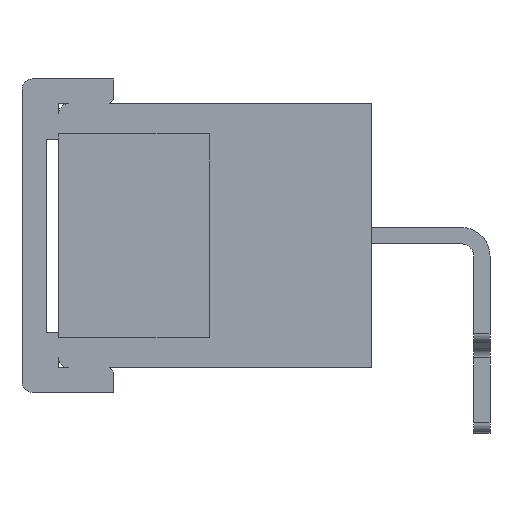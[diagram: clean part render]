
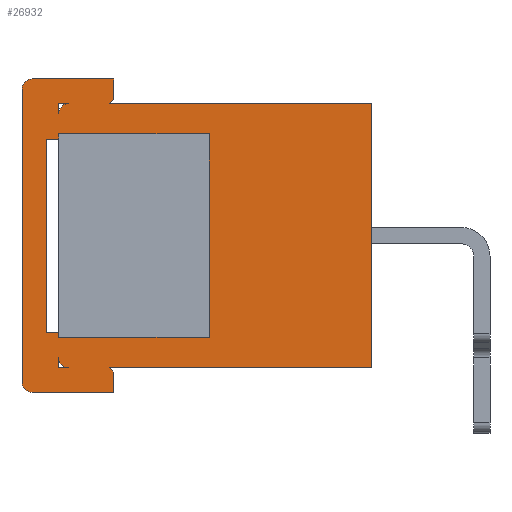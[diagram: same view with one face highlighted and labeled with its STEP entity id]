
A CAD part, left-side view. The second image highlights one B-rep face of the part: STEP entity #26932.
In plain terms, the highlighted planar face has unit normal (-1, 0, 0).
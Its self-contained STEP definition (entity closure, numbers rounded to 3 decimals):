
#1=DIRECTION('',(0.,0.707,0.707));
#2=VECTOR('',#1,0.283);
#3=CARTESIAN_POINT('',(7.25,12.7,-13.2));
#4=LINE('',#3,#2);
#5=CARTESIAN_POINT('',(7.25,16.7,-13.7));
#6=DIRECTION('',(-1.,0.,0.));
#7=DIRECTION('',(0.,1.,0.));
#8=AXIS2_PLACEMENT_3D('',#5,#6,#7);
#10=CARTESIAN_POINT('',(7.25,16.7,0.7));
#11=DIRECTION('',(-1.,0.,0.));
#12=DIRECTION('',(0.,0.,1.));
#13=AXIS2_PLACEMENT_3D('',#10,#11,#12);
#15=DIRECTION('',(0.,1.,0.));
#16=VECTOR('',#15,4.);
#17=CARTESIAN_POINT('',(7.25,12.7,1.2));
#18=LINE('',#17,#16);
#19=DIRECTION('',(0.,-0.707,0.707));
#20=VECTOR('',#19,0.283);
#21=CARTESIAN_POINT('',(7.25,12.9,0.));
#22=LINE('',#21,#20);
#23=CARTESIAN_POINT('',(7.25,14.9,-12.5));
#24=DIRECTION('',(-1.,0.,0.));
#25=DIRECTION('',(0.,1.,0.));
#26=AXIS2_PLACEMENT_3D('',#23,#24,#25);
#28=CARTESIAN_POINT('',(7.25,14.9,-0.5));
#29=DIRECTION('',(-1.,0.,0.));
#30=DIRECTION('',(0.,0.,1.));
#31=AXIS2_PLACEMENT_3D('',#28,#29,#30);
#45=DIRECTION('',(0.,1.,0.));
#46=VECTOR('',#45,12.9);
#47=CARTESIAN_POINT('',(7.25,0.,-13.));
#48=LINE('',#47,#46);
#131=DIRECTION('',(0.,-1.,0.));
#132=VECTOR('',#131,0.5);
#133=CARTESIAN_POINT('',(7.25,15.4,-13.));
#134=LINE('',#133,#132);
#229=DIRECTION('',(0.,0.,-1.));
#230=VECTOR('',#229,13.);
#231=CARTESIAN_POINT('',(7.25,0.,0.));
#232=LINE('',#231,#230);
#351=DIRECTION('',(0.,1.,0.));
#352=VECTOR('',#351,0.5);
#353=CARTESIAN_POINT('',(7.25,14.9,0.));
#354=LINE('',#353,#352);
#431=DIRECTION('',(0.,0.,-1.));
#432=VECTOR('',#431,1.);
#433=CARTESIAN_POINT('',(7.25,12.7,1.2));
#434=LINE('',#433,#432);
#455=DIRECTION('',(0.,0.,1.));
#456=VECTOR('',#455,14.4);
#457=CARTESIAN_POINT('',(7.25,17.2,-13.7));
#458=LINE('',#457,#456);
#471=DIRECTION('',(0.,1.,0.));
#472=VECTOR('',#471,4.);
#473=CARTESIAN_POINT('',(7.25,12.7,-14.2));
#474=LINE('',#473,#472);
#483=DIRECTION('',(0.,0.,-1.));
#484=VECTOR('',#483,1.);
#485=CARTESIAN_POINT('',(7.25,12.7,-13.2));
#486=LINE('',#485,#484);
#604=DIRECTION('',(0.,0.,-1.));
#605=VECTOR('',#604,0.25);
#606=CARTESIAN_POINT('',(7.25,15.4,-11.25));
#607=LINE('',#606,#605);
#624=DIRECTION('',(0.,0.,-1.));
#625=VECTOR('',#624,0.5);
#626=CARTESIAN_POINT('',(7.25,15.4,-12.5));
#627=LINE('',#626,#625);
#672=DIRECTION('',(0.,0.,-1.));
#673=VECTOR('',#672,0.25);
#674=CARTESIAN_POINT('',(7.25,15.4,-1.5));
#675=LINE('',#674,#673);
#692=DIRECTION('',(0.,0.,-1.));
#693=VECTOR('',#692,0.5);
#694=CARTESIAN_POINT('',(7.25,15.4,0.));
#695=LINE('',#694,#693);
#712=DIRECTION('',(0.,1.,0.));
#713=VECTOR('',#712,0.6);
#714=CARTESIAN_POINT('',(7.25,15.4,-1.75));
#715=LINE('',#714,#713);
#851=DIRECTION('',(0.,-1.,0.));
#852=VECTOR('',#851,12.9);
#853=CARTESIAN_POINT('',(7.25,12.9,0.));
#854=LINE('',#853,#852);
#1008=DIRECTION('',(0.,1.,0.));
#1009=VECTOR('',#1008,7.4);
#1010=CARTESIAN_POINT('',(7.25,8.,-1.5));
#1011=LINE('',#1010,#1009);
#1016=DIRECTION('',(0.,0.,1.));
#1017=VECTOR('',#1016,10.);
#1018=CARTESIAN_POINT('',(7.25,8.,-11.5));
#1019=LINE('',#1018,#1017);
#1028=DIRECTION('',(0.,-1.,0.));
#1029=VECTOR('',#1028,7.4);
#1030=CARTESIAN_POINT('',(7.25,15.4,-11.5));
#1031=LINE('',#1030,#1029);
#1048=DIRECTION('',(0.,-1.,0.));
#1049=VECTOR('',#1048,0.6);
#1050=CARTESIAN_POINT('',(7.25,16.,-11.25));
#1051=LINE('',#1050,#1049);
#1060=DIRECTION('',(0.,0.,-1.));
#1061=VECTOR('',#1060,9.5);
#1062=CARTESIAN_POINT('',(7.25,16.,-1.75));
#1063=LINE('',#1062,#1061);
#22837=CARTESIAN_POINT('',(7.25,8.,-11.5));
#22838=CARTESIAN_POINT('',(7.25,8.,-1.5));
#22839=VERTEX_POINT('',#22837);
#22840=VERTEX_POINT('',#22838);
#22841=CARTESIAN_POINT('',(7.25,0.,0.));
#22842=CARTESIAN_POINT('',(7.25,0.,-13.));
#22843=VERTEX_POINT('',#22841);
#22844=VERTEX_POINT('',#22842);
#23045=CARTESIAN_POINT('',(7.25,12.7,1.2));
#23046=CARTESIAN_POINT('',(7.25,16.7,1.2));
#23047=VERTEX_POINT('',#23045);
#23048=VERTEX_POINT('',#23046);
#23049=CARTESIAN_POINT('',(7.25,17.2,0.7));
#23050=VERTEX_POINT('',#23049);
#23051=CARTESIAN_POINT('',(7.25,12.7,0.2));
#23052=VERTEX_POINT('',#23051);
#23053=CARTESIAN_POINT('',(7.25,15.4,-1.75));
#23054=CARTESIAN_POINT('',(7.25,16.,-1.75));
#23055=VERTEX_POINT('',#23053);
#23056=VERTEX_POINT('',#23054);
#23057=CARTESIAN_POINT('',(7.25,16.,-11.25));
#23058=VERTEX_POINT('',#23057);
#23059=CARTESIAN_POINT('',(7.25,15.4,-11.25));
#23060=VERTEX_POINT('',#23059);
#23061=CARTESIAN_POINT('',(7.25,12.7,-13.2));
#23062=CARTESIAN_POINT('',(7.25,12.7,-14.2));
#23063=VERTEX_POINT('',#23061);
#23064=VERTEX_POINT('',#23062);
#23065=CARTESIAN_POINT('',(7.25,16.7,-14.2));
#23066=VERTEX_POINT('',#23065);
#23067=CARTESIAN_POINT('',(7.25,17.2,-13.7));
#23068=VERTEX_POINT('',#23067);
#26124=CARTESIAN_POINT('',(7.25,15.4,-11.5));
#26126=VERTEX_POINT('',#26124);
#26135=CARTESIAN_POINT('',(7.25,15.4,-12.5));
#26137=VERTEX_POINT('',#26135);
#26139=CARTESIAN_POINT('',(7.25,14.9,-13.));
#26141=VERTEX_POINT('',#26139);
#26152=CARTESIAN_POINT('',(7.25,12.9,-13.));
#26154=VERTEX_POINT('',#26152);
#26155=CARTESIAN_POINT('',(7.25,12.9,0.));
#26157=VERTEX_POINT('',#26155);
#26167=CARTESIAN_POINT('',(7.25,14.9,0.));
#26169=VERTEX_POINT('',#26167);
#26171=CARTESIAN_POINT('',(7.25,15.4,-0.5));
#26173=VERTEX_POINT('',#26171);
#26215=CARTESIAN_POINT('',(7.25,15.4,-1.5));
#26217=VERTEX_POINT('',#26215);
#26219=CARTESIAN_POINT('',(7.25,15.4,0.));
#26220=VERTEX_POINT('',#26219);
#26221=CARTESIAN_POINT('',(7.25,15.4,-13.));
#26222=VERTEX_POINT('',#26221);
#26867=CARTESIAN_POINT('',(7.25,9.7,-12.25));
#26868=DIRECTION('',(1.,0.,0.));
#26869=DIRECTION('',(0.,-1.,0.));
#26870=AXIS2_PLACEMENT_3D('',#26867,#26868,#26869);
#26871=PLANE('',#26870);
#26873=ORIENTED_EDGE('',*,*,#26872,.T.);
#26875=ORIENTED_EDGE('',*,*,#26874,.F.);
#26877=ORIENTED_EDGE('',*,*,#26876,.T.);
#26879=ORIENTED_EDGE('',*,*,#26878,.T.);
#26881=ORIENTED_EDGE('',*,*,#26880,.F.);
#26883=ORIENTED_EDGE('',*,*,#26882,.T.);
#26885=ORIENTED_EDGE('',*,*,#26884,.F.);
#26887=ORIENTED_EDGE('',*,*,#26886,.F.);
#26889=ORIENTED_EDGE('',*,*,#26888,.T.);
#26891=ORIENTED_EDGE('',*,*,#26890,.F.);
#26893=ORIENTED_EDGE('',*,*,#26892,.T.);
#26895=ORIENTED_EDGE('',*,*,#26894,.T.);
#26896=EDGE_LOOP('',(#26873,#26875,#26877,#26879,#26881,#26883,#26885,#26887,
#26889,#26891,#26893,#26895));
#26897=FACE_OUTER_BOUND('',#26896,.F.);
#26899=ORIENTED_EDGE('',*,*,#26898,.F.);
#26901=ORIENTED_EDGE('',*,*,#26900,.T.);
#26903=ORIENTED_EDGE('',*,*,#26902,.T.);
#26904=EDGE_LOOP('',(#26899,#26901,#26903));
#26905=FACE_BOUND('',#26904,.F.);
#26907=ORIENTED_EDGE('',*,*,#26906,.T.);
#26909=ORIENTED_EDGE('',*,*,#26908,.T.);
#26911=ORIENTED_EDGE('',*,*,#26910,.T.);
#26913=ORIENTED_EDGE('',*,*,#26912,.T.);
#26915=ORIENTED_EDGE('',*,*,#26914,.T.);
#26917=ORIENTED_EDGE('',*,*,#26916,.T.);
#26919=ORIENTED_EDGE('',*,*,#26918,.T.);
#26921=ORIENTED_EDGE('',*,*,#26920,.T.);
#26922=EDGE_LOOP('',(#26907,#26909,#26911,#26913,#26915,#26917,#26919,#26921));
#26923=FACE_BOUND('',#26922,.F.);
#26925=ORIENTED_EDGE('',*,*,#26924,.F.);
#26927=ORIENTED_EDGE('',*,*,#26926,.T.);
#26929=ORIENTED_EDGE('',*,*,#26928,.T.);
#26930=EDGE_LOOP('',(#26925,#26927,#26929));
#26931=FACE_BOUND('',#26930,.F.);
#26932=ADVANCED_FACE('',(#26897,#26905,#26923,#26931),#26871,.F.);
#9=CIRCLE('',#8,0.5);
#14=CIRCLE('',#13,0.5);
#27=CIRCLE('',#26,0.5);
#32=CIRCLE('',#31,0.5);
#26872=EDGE_CURVE('',#22844,#26154,#48,.T.);
#26874=EDGE_CURVE('',#23063,#26154,#4,.T.);
#26876=EDGE_CURVE('',#23063,#23064,#486,.T.);
#26878=EDGE_CURVE('',#23064,#23066,#474,.T.);
#26880=EDGE_CURVE('',#23068,#23066,#9,.T.);
#26882=EDGE_CURVE('',#23068,#23050,#458,.T.);
#26884=EDGE_CURVE('',#23048,#23050,#14,.T.);
#26886=EDGE_CURVE('',#23047,#23048,#18,.T.);
#26888=EDGE_CURVE('',#23047,#23052,#434,.T.);
#26890=EDGE_CURVE('',#26157,#23052,#22,.T.);
#26892=EDGE_CURVE('',#26157,#22843,#854,.T.);
#26894=EDGE_CURVE('',#22843,#22844,#232,.T.);
#26898=EDGE_CURVE('',#26137,#26141,#27,.T.);
#26900=EDGE_CURVE('',#26137,#26222,#627,.T.);
#26902=EDGE_CURVE('',#26222,#26141,#134,.T.);
#26906=EDGE_CURVE('',#22840,#26217,#1011,.T.);
#26908=EDGE_CURVE('',#26217,#23055,#675,.T.);
#26910=EDGE_CURVE('',#23055,#23056,#715,.T.);
#26912=EDGE_CURVE('',#23056,#23058,#1063,.T.);
#26914=EDGE_CURVE('',#23058,#23060,#1051,.T.);
#26916=EDGE_CURVE('',#23060,#26126,#607,.T.);
#26918=EDGE_CURVE('',#26126,#22839,#1031,.T.);
#26920=EDGE_CURVE('',#22839,#22840,#1019,.T.);
#26924=EDGE_CURVE('',#26169,#26173,#32,.T.);
#26926=EDGE_CURVE('',#26169,#26220,#354,.T.);
#26928=EDGE_CURVE('',#26220,#26173,#695,.T.);
